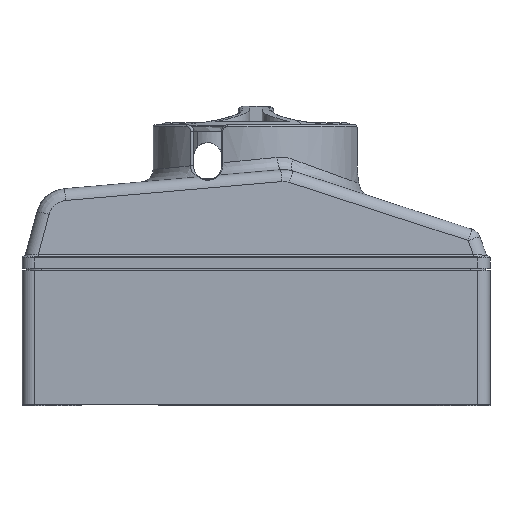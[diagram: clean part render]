
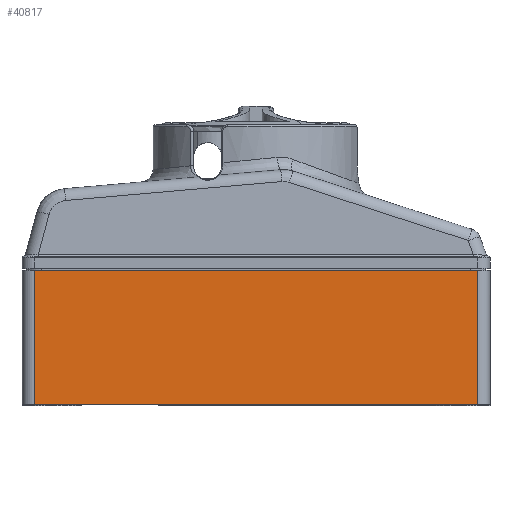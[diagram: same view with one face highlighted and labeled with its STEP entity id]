
A CAD part, left-side view. The second image highlights one B-rep face of the part: STEP entity #40817.
In plain terms, the highlighted planar face has unit normal (-1, 0, 0).
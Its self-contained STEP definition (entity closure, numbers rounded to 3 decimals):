
#40790=AXIS2_PLACEMENT_3D('Plane Axis2P3D',#40787,#40788,#40789) ;
#40748=CARTESIAN_POINT('Vertex',(-50.,71.,-43.5)) ;
#40751=CARTESIAN_POINT('Line Origine',(-50.,71.,-22.)) ;
#40755=CARTESIAN_POINT('Vertex',(-50.,71.,-0.5)) ;
#40787=CARTESIAN_POINT('Axis2P3D Location',(-50.,0.,0.)) ;
#40792=CARTESIAN_POINT('Line Origine',(-50.,-71.,-22.)) ;
#40796=CARTESIAN_POINT('Vertex',(-50.,-71.,-0.5)) ;
#40798=CARTESIAN_POINT('Vertex',(-50.,-71.,-43.5)) ;
#40801=CARTESIAN_POINT('Line Origine',(-50.,0.,-0.5)) ;
#40806=CARTESIAN_POINT('Line Origine',(-50.,0.,-43.5)) ;
#40752=DIRECTION('Vector Direction',(0.,0.,-1.)) ;
#40788=DIRECTION('Axis2P3D Direction',(-1.,0.,0.)) ;
#40789=DIRECTION('Axis2P3D XDirection',(0.,1.,0.)) ;
#40793=DIRECTION('Vector Direction',(0.,0.,1.)) ;
#40802=DIRECTION('Vector Direction',(0.,-1.,0.)) ;
#40807=DIRECTION('Vector Direction',(0.,1.,0.)) ;
#40753=VECTOR('Line Direction',#40752,1.) ;
#40794=VECTOR('Line Direction',#40793,1.) ;
#40803=VECTOR('Line Direction',#40802,1.) ;
#40808=VECTOR('Line Direction',#40807,1.) ;
#40812=ORIENTED_EDGE('',*,*,#40800,.F.) ;
#40813=ORIENTED_EDGE('',*,*,#40805,.F.) ;
#40814=ORIENTED_EDGE('',*,*,#40757,.T.) ;
#40815=ORIENTED_EDGE('',*,*,#40810,.F.) ;
#40817=ADVANCED_FACE('Corps principal ( *SOL3131 - wsp *MASTER -  _erreur_pendant_mise_\X2\00E0\X0\_jour_de_V5 )',(#40816),#40791,.T.) ;
#40757=EDGE_CURVE('',#40756,#40749,#40754,.T.) ;
#40800=EDGE_CURVE('',#40797,#40799,#40795,.F.) ;
#40805=EDGE_CURVE('',#40756,#40797,#40804,.T.) ;
#40810=EDGE_CURVE('',#40799,#40749,#40809,.T.) ;
#40811=EDGE_LOOP('',(#40812,#40813,#40814,#40815)) ;
#40816=FACE_OUTER_BOUND('',#40811,.T.) ;
#40754=LINE('Line',#40751,#40753) ;
#40795=LINE('Line',#40792,#40794) ;
#40804=LINE('Line',#40801,#40803) ;
#40809=LINE('Line',#40806,#40808) ;
#40791=PLANE('Plane',#40790) ;
#40749=VERTEX_POINT('',#40748) ;
#40756=VERTEX_POINT('',#40755) ;
#40797=VERTEX_POINT('',#40796) ;
#40799=VERTEX_POINT('',#40798) ;
